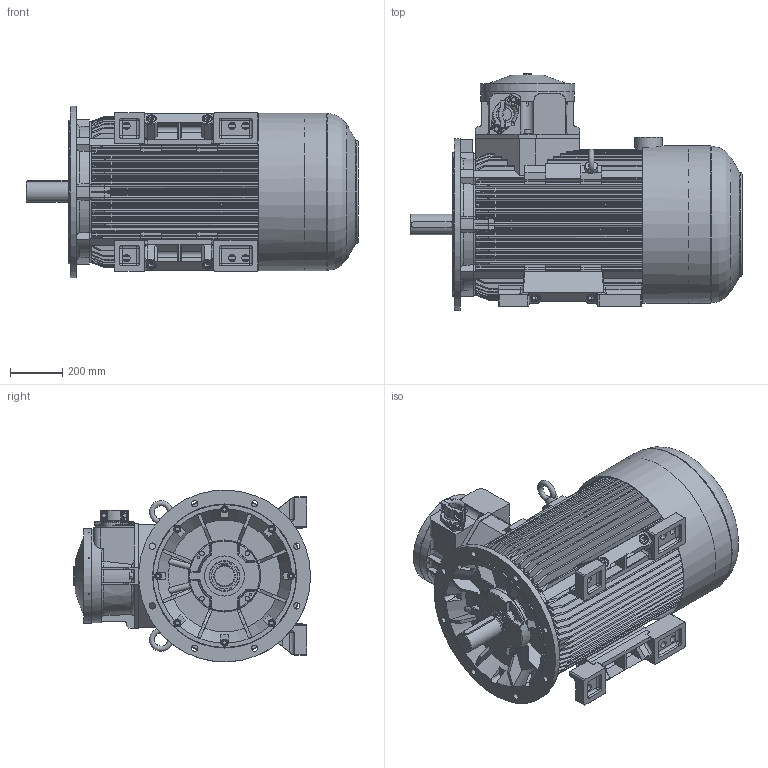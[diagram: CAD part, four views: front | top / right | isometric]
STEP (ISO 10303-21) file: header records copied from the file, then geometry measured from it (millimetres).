
FILE_DESCRIPTION(/* description */ ('Unknown'),/* implementation_level */ '2;1');
FILE_NAME(/* name */ 'cSTLe(b)315S(4,6,8), M(6,8)A-N-IE(2,3)',/* time_stamp */ '2022-04-19T14:17:13+02:00',/* author */ ('Unknown'),/* organization */ ('Unknown'),/* preprocessor_version */ 'ST-DEVELOPER v16.7',/* originating_system */ 'DEX',/* authorisation */ $);
FILE_SCHEMA (('AUTOMOTIVE_DESIGN {1 0 10303 214 3 1 1}'));
Products named in the file (1): cSTLe(b)315S(4,6,8), M(6,8)A-N-IE(2,3)
Bounding box: 1274.52 x 910 x 659.67 mm (x, y, z)
Volume: 282377543.9 mm3; surface area: 7904603.5 mm2
Topology: 1 solids, 53 shells, 2870 faces, 7422 edges, 4709 vertices
Faces by surface type: plane 1382, cylinder 860, cone 278, torus 180, bspline 107, sphere 63
Full cylindrical faces by diameter (mm): 2.459 x2, 3 x4, 4.5 x1, 6 x1, 6.3 x1, 8.16 x2, 8.376 x4, 9.853 x8, 10 x10, 10.106 x8, 11 x7, 12 x18, 13.5 x8, 13.546 x4, 13.835 x6, 14.63 x8, 16 x17, 17.5 x12, 18 x8, 20.319 x4, 20.752 x4, 22 x8, 24 x28, 26 x12, 28 x6, 36 x4, 40 x4, 50 x3, 67 x1, 80 x1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
Entity records: 109524 total; most frequent: CARTESIAN_POINT 22359, DIRECTION 13864, ORIENTED_EDGE 13702, EDGE_CURVE 6851, AXIS2_PLACEMENT_3D 5240, VERTEX_POINT 4527, FACE_BOUND 3444, EDGE_LOOP 3426
